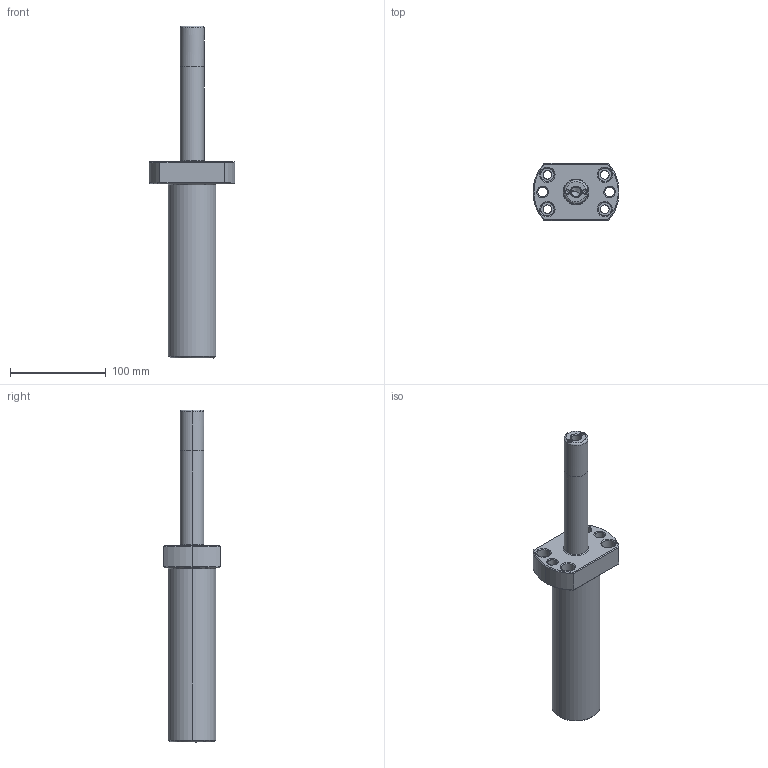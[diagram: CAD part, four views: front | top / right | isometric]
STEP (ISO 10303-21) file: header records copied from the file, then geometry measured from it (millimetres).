
FILE_DESCRIPTION(('CATIA V5 STEP Exchange'),'2;1');
FILE_NAME('W:\CATALOGO GENERAL 2018\FICHEROS CAD\020-TPSL\TPSL\TPSL 250x125.stp','2017-11-28T16:16:08+00:00',('none'),('none'),'CATIA Version 5 Release 17 (IN-10)','CATIA V5 STEP AP203','none');
FILE_SCHEMA(('CONFIG_CONTROL_DESIGN'));
Length unit declared in the file: millimetre
Products named in the file (1): TPSL 250x125
Bounding box: 89.85 x 60 x 347 mm (x, y, z)
Volume: 525294 mm3; surface area: 59625.3 mm2
Topology: 1 solids, 1 shells, 103 faces, 237 edges, 137 vertices
Faces by surface type: cone 49, cylinder 37, plane 14, torus 3
Entity records: 3272 total; most frequent: CARTESIAN_POINT 1043, ORIENTED_EDGE 462, DIRECTION 386, EDGE_CURVE 231, AXIS2_PLACEMENT_3D 193, VERTEX_POINT 137, EDGE_LOOP 122, ADVANCED_FACE 103
